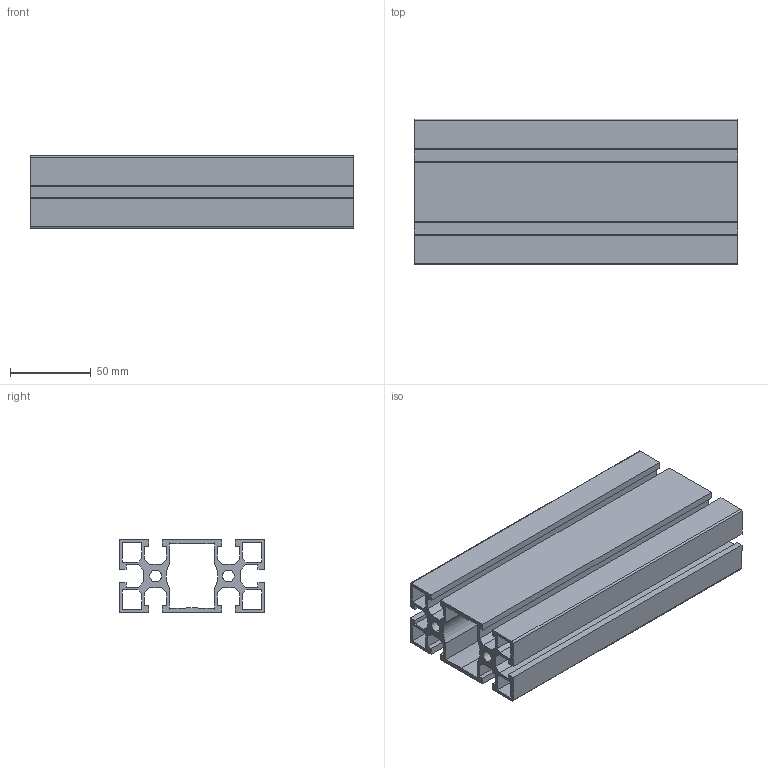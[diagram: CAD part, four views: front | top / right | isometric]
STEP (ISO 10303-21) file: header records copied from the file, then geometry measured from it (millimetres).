
FILE_DESCRIPTION (( 'STEP AP203' ), '1' );
FILE_NAME ('1.01.02.0009-profilo-alluminio-3D-45x90L-Milper.STEP', '2020-06-04T07:05:57', ( '' ), ( '' ), 'SwSTEP 2.0', 'SolidWorks 2019', '' );
FILE_SCHEMA (( 'CONFIG_CONTROL_DESIGN' ));
Length unit declared in the file: millimetre
Products named in the file (1): 1.01.02.0009-profilo-alluminio-3D-45x90L-Milper
Bounding box: 200 x 90 x 45 mm (x, y, z)
Volume: 235094.6 mm3; surface area: 175928.6 mm2
Topology: 1 solids, 1 shells, 103 faces, 303 edges, 202 vertices
Faces by surface type: plane 90, cylinder 13
Entity records: 3488 total; most frequent: CARTESIAN_POINT 609, ORIENTED_EDGE 606, DIRECTION 537, EDGE_CURVE 303, LINE 277, VECTOR 277, VERTEX_POINT 202, AXIS2_PLACEMENT_3D 130
